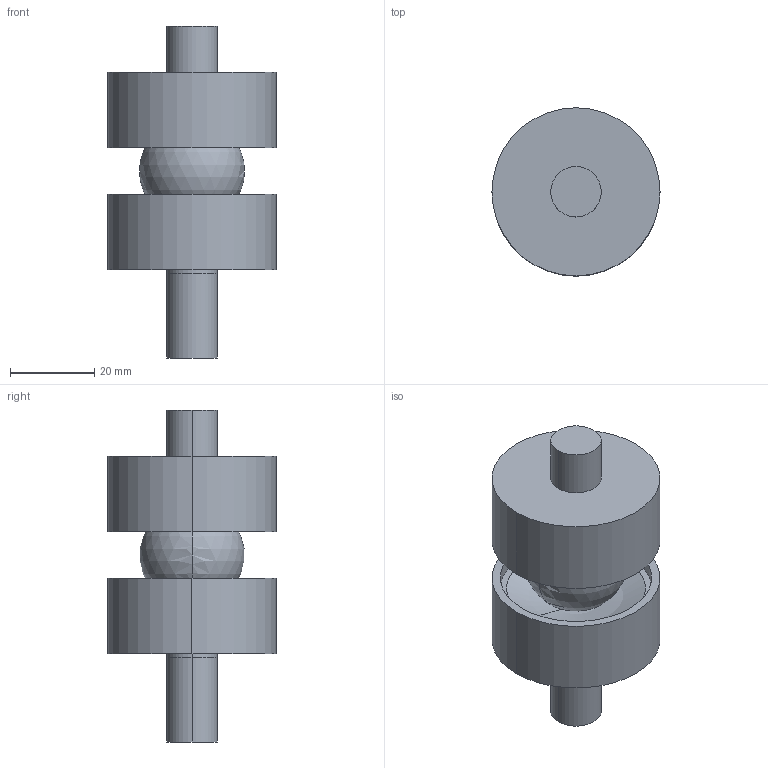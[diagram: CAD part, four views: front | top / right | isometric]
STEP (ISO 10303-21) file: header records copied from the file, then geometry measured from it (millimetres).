
FILE_DESCRIPTION((''),'1');
FILE_NAME('LALAQ_M12.step','2020-05-19T13:15:42',(''),(''),'','','');
FILE_SCHEMA(('AUTOMOTIVE_DESIGN { 1 0 10303 214 1 1 1 1 }'));
Products named in the file (4): LALAQ M12; LALAQ top part 01; LALAQ part 02; LALAQ part 03
Assembly tree (3 placements, depth 2):
  LALAQ M12
    LALAQ top part 01
    LALAQ part 02
    LALAQ part 03
Bounding box: 40 x 40 x 79 mm (x, y, z)
Volume: 47443.8 mm3; surface area: 14167.3 mm2
Topology: 3 solids, 4 shells, 29 faces, 62 edges, 38 vertices
Faces by surface type: cylinder 14, plane 9, sphere 6
Entity records: 872 total; most frequent: DIRECTION 160, CARTESIAN_POINT 125, ORIENTED_EDGE 104, AXIS2_PLACEMENT_3D 73, EDGE_CURVE 54, CIRCLE 40, VERTEX_POINT 38, EDGE_LOOP 36
